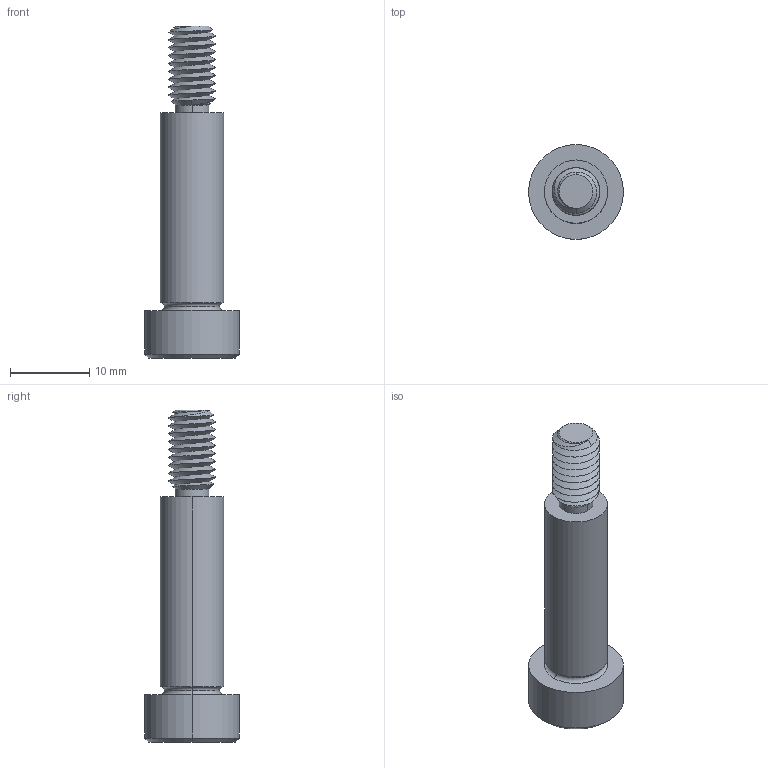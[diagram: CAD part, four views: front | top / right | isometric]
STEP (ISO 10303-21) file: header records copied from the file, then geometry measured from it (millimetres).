
FILE_DESCRIPTION (( 'STEP AP203' ), '1' );
FILE_NAME ('P0130.080-025-B2.step', '2021-11-09T21:39:05', ( '' ), ( '' ), 'SwSTEP 2.0', 'SolidWorks 2019', '' );
FILE_SCHEMA (( 'CONFIG_CONTROL_DESIGN' ));
Length unit declared in the file: millimetre
Products named in the file (1): P0130.080-025-B2
Bounding box: 12 x 12 x 42 mm (x, y, z)
Volume: 2084.2 mm3; surface area: 1461.2 mm2
Topology: 1 solids, 1 shells, 60 faces, 142 edges, 85 vertices
Faces by surface type: cylinder 24, plane 16, cone 14, torus 4, bspline 2
Entity records: 4245 total; most frequent: CARTESIAN_POINT 2899, ORIENTED_EDGE 280, DIRECTION 247, EDGE_CURVE 140, AXIS2_PLACEMENT_3D 99, VERTEX_POINT 85, EDGE_LOOP 63, FACE_OUTER_BOUND 60
